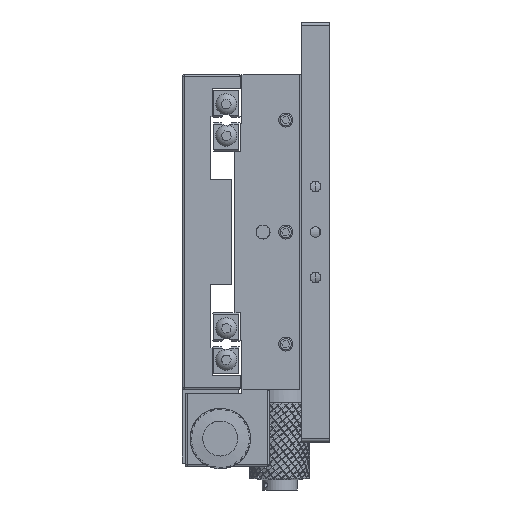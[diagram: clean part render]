
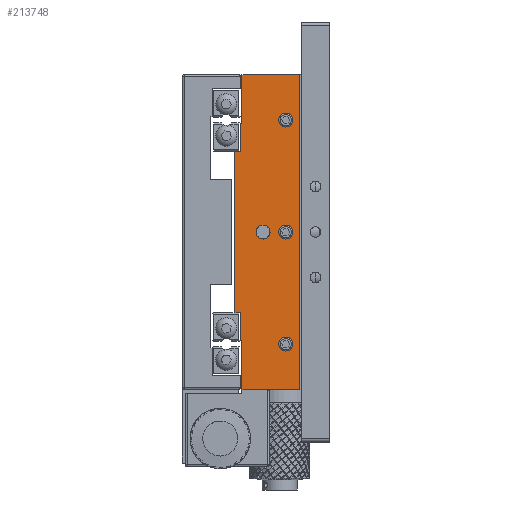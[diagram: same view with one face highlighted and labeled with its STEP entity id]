
A CAD part, left-side view. The second image highlights one B-rep face of the part: STEP entity #213748.
In plain terms, the highlighted planar face has unit normal (-1, 0, 0).
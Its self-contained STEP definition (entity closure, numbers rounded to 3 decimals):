
#38484 = VERTEX_POINT ( 'NONE', #92444 ) ;
#38618 = VERTEX_POINT ( 'NONE', #92604 ) ;
#38620 = VERTEX_POINT ( 'NONE', #92608 ) ;
#38623 = VERTEX_POINT ( 'NONE', #92612 ) ;
#77240 = CIRCLE ( 'NONE', #321544, 2. ) ;
#77322 = LINE ( 'NONE', #81578, #77333 ) ;
#77333 = VECTOR ( 'NONE', #81589, 1000. ) ;
#77359 = LINE ( 'NONE', #81624, #77368 ) ;
#77368 = VECTOR ( 'NONE', #81653, 1000. ) ;
#77376 = LINE ( 'NONE', #81667, #77383 ) ;
#77383 = VECTOR ( 'NONE', #81670, 1000. ) ;
#77396 = LINE ( 'NONE', #81690, #77409 ) ;
#77409 = VECTOR ( 'NONE', #81721, 1000. ) ;
#77413 = LINE ( 'NONE', #81731, #77420 ) ;
#77420 = VECTOR ( 'NONE', #81734, 1000. ) ;
#77443 = LINE ( 'NONE', #81801, #77449 ) ;
#77449 = VECTOR ( 'NONE', #81804, 1000. ) ;
#77456 = LINE ( 'NONE', #81815, #77462 ) ;
#77462 = VECTOR ( 'NONE', #81818, 1000. ) ;
#77475 = LINE ( 'NONE', #81838, #77488 ) ;
#77488 = VECTOR ( 'NONE', #81869, 1000. ) ;
#77493 = LINE ( 'NONE', #81879, #77499 ) ;
#77499 = VECTOR ( 'NONE', #81883, 1000. ) ;
#77510 = LINE ( 'NONE', #81881, #77519 ) ;
#77519 = VECTOR ( 'NONE', #81910, 1000. ) ;
#77564 = LINE ( 'NONE', #82260, #77586 ) ;
#77586 = VECTOR ( 'NONE', #82292, 1000. ) ;
#77645 = LINE ( 'NONE', #82417, #77651 ) ;
#77651 = VECTOR ( 'NONE', #82421, 1000. ) ;
#77658 = CIRCLE ( 'NONE', #321687, 2. ) ;
#77662 = CIRCLE ( 'NONE', #321689, 2. ) ;
#77664 = CIRCLE ( 'NONE', #321691, 2. ) ;
#81426 = CARTESIAN_POINT ( 'NONE',  ( -73.878, -35.729, 6.097 ) ) ;
#81429 = DIRECTION ( 'NONE',  ( -1., 0., 0. ) ) ;
#81432 = DIRECTION ( 'NONE',  ( 0., 0., 1. ) ) ;
#81578 = CARTESIAN_POINT ( 'NONE',  ( -73.878, -39.729, 38.097 ) ) ;
#81589 = DIRECTION ( 'NONE',  ( 0., 0., -1. ) ) ;
#81624 = CARTESIAN_POINT ( 'NONE',  ( -73.878, -23.229, 38.097 ) ) ;
#81653 = DIRECTION ( 'NONE',  ( 0., 0., -1. ) ) ;
#81667 = CARTESIAN_POINT ( 'NONE',  ( -73.878, -30.479, 69.097 ) ) ;
#81670 = DIRECTION ( 'NONE',  ( 0., 1., 0. ) ) ;
#81690 = CARTESIAN_POINT ( 'NONE',  ( -73.878, -22.729, 38.097 ) ) ;
#81721 = DIRECTION ( 'NONE',  ( 0., 0., -1. ) ) ;
#81731 = CARTESIAN_POINT ( 'NONE',  ( -73.878, -30.479, 61.097 ) ) ;
#81734 = DIRECTION ( 'NONE',  ( 0., 1., 0. ) ) ;
#81801 = CARTESIAN_POINT ( 'NONE',  ( -73.878, -21.229, 38.097 ) ) ;
#81804 = DIRECTION ( 'NONE',  ( 0., 0., -1. ) ) ;
#81815 = CARTESIAN_POINT ( 'NONE',  ( -73.878, -30.479, 15.097 ) ) ;
#81818 = DIRECTION ( 'NONE',  ( 0., 1., 0. ) ) ;
#81838 = CARTESIAN_POINT ( 'NONE',  ( -73.878, -22.729, 38.097 ) ) ;
#81869 = DIRECTION ( 'NONE',  ( 0., 0., 1. ) ) ;
#81879 = CARTESIAN_POINT ( 'NONE',  ( -73.878, -30.479, 7.097 ) ) ;
#81881 = CARTESIAN_POINT ( 'NONE',  ( -73.878, -23.229, 38.097 ) ) ;
#81883 = DIRECTION ( 'NONE',  ( 0., 1., 0. ) ) ;
#81910 = DIRECTION ( 'NONE',  ( 0., 0., 1. ) ) ;
#82260 = CARTESIAN_POINT ( 'NONE',  ( -73.878, -30.479, 83.097 ) ) ;
#82292 = DIRECTION ( 'NONE',  ( 0., 1., 0. ) ) ;
#82417 = CARTESIAN_POINT ( 'NONE',  ( -73.878, -30.479, -6.903 ) ) ;
#82421 = DIRECTION ( 'NONE',  ( 0., 1., 0. ) ) ;
#82628 = CARTESIAN_POINT ( 'NONE',  ( -73.878, -29.229, 38.097 ) ) ;
#82630 = DIRECTION ( 'NONE',  ( -1., 0., 0. ) ) ;
#82633 = DIRECTION ( 'NONE',  ( 0., 0., 1. ) ) ;
#82642 = CARTESIAN_POINT ( 'NONE',  ( -73.878, -35.729, 38.097 ) ) ;
#82645 = DIRECTION ( 'NONE',  ( -1., 0., 0. ) ) ;
#82647 = DIRECTION ( 'NONE',  ( 0., 0., 1. ) ) ;
#82655 = CARTESIAN_POINT ( 'NONE',  ( -73.878, -35.729, 70.097 ) ) ;
#82658 = DIRECTION ( 'NONE',  ( -1., 0., 0. ) ) ;
#82661 = DIRECTION ( 'NONE',  ( 0., 0., 1. ) ) ;
#92444 = CARTESIAN_POINT ( 'NONE',  ( -73.878, -35.729, 8.097 ) ) ;
#92604 = CARTESIAN_POINT ( 'NONE',  ( -73.878, -29.229, 40.097 ) ) ;
#92608 = CARTESIAN_POINT ( 'NONE',  ( -73.878, -35.729, 40.097 ) ) ;
#92612 = CARTESIAN_POINT ( 'NONE',  ( -73.878, -35.729, 72.097 ) ) ;
#104346 = AXIS2_PLACEMENT_3D ( 'NONE', #315204, #315199, #315209 ) ;
#115269 = FACE_OUTER_BOUND ( 'NONE', #150756, .T. ) ;
#115273 = FACE_BOUND ( 'NONE', #150736, .T. ) ;
#115274 = FACE_BOUND ( 'NONE', #150759, .T. ) ;
#115276 = FACE_BOUND ( 'NONE', #150751, .T. ) ;
#115278 = FACE_BOUND ( 'NONE', #150746, .T. ) ;
#126766 = VERTEX_POINT ( 'NONE', #302175 ) ;
#126779 = VERTEX_POINT ( 'NONE', #302190 ) ;
#126783 = VERTEX_POINT ( 'NONE', #302194 ) ;
#126808 = VERTEX_POINT ( 'NONE', #302220 ) ;
#126833 = VERTEX_POINT ( 'NONE', #302246 ) ;
#126837 = VERTEX_POINT ( 'NONE', #302249 ) ;
#126841 = VERTEX_POINT ( 'NONE', #302252 ) ;
#126855 = VERTEX_POINT ( 'NONE', #302263 ) ;
#126863 = VERTEX_POINT ( 'NONE', #302268 ) ;
#126878 = VERTEX_POINT ( 'NONE', #302279 ) ;
#126921 = VERTEX_POINT ( 'NONE', #302315 ) ;
#127216 = VERTEX_POINT ( 'NONE', #302541 ) ;
#150736 = EDGE_LOOP ( 'NONE', ( #237588 ) ) ;
#150746 = EDGE_LOOP ( 'NONE', ( #237593 ) ) ;
#150751 = EDGE_LOOP ( 'NONE', ( #237664 ) ) ;
#150756 = EDGE_LOOP ( 'NONE', ( #237599, #237604, #237609, #237614, #237618, #237623, #237628, #237634, #237639, #237643, #237648, #237653 ) ) ;
#150759 = EDGE_LOOP ( 'NONE', ( #237659 ) ) ;
#213748 = ADVANCED_FACE ( 'NONE', ( #115273, #115278, #115269, #115274, #115276 ), #315200, .F. ) ;
#224536 = EDGE_CURVE ( 'NONE', #38484, #38484, #77240, .T. ) ;
#224590 = EDGE_CURVE ( 'NONE', #126863, #126921, #77322, .T. ) ;
#224613 = EDGE_CURVE ( 'NONE', #126878, #126841, #77359, .T. ) ;
#224623 = EDGE_CURVE ( 'NONE', #126841, #126855, #77376, .T. ) ;
#224641 = EDGE_CURVE ( 'NONE', #126855, #126808, #77396, .T. ) ;
#224648 = EDGE_CURVE ( 'NONE', #126808, #126833, #77413, .T. ) ;
#224668 = EDGE_CURVE ( 'NONE', #126833, #126783, #77443, .T. ) ;
#224671 = EDGE_CURVE ( 'NONE', #126837, #126783, #77456, .T. ) ;
#224679 = EDGE_CURVE ( 'NONE', #126766, #126837, #77475, .T. ) ;
#224682 = EDGE_CURVE ( 'NONE', #126779, #126766, #77493, .T. ) ;
#224687 = EDGE_CURVE ( 'NONE', #127216, #126779, #77510, .T. ) ;
#237588 = ORIENTED_EDGE ( 'NONE', *, *, #251202, .F. ) ;
#237593 = ORIENTED_EDGE ( 'NONE', *, *, #251207, .F. ) ;
#237599 = ORIENTED_EDGE ( 'NONE', *, *, #251173, .F. ) ;
#237604 = ORIENTED_EDGE ( 'NONE', *, *, #224590, .F. ) ;
#237609 = ORIENTED_EDGE ( 'NONE', *, *, #251083, .T. ) ;
#237614 = ORIENTED_EDGE ( 'NONE', *, *, #224613, .T. ) ;
#237618 = ORIENTED_EDGE ( 'NONE', *, *, #224623, .T. ) ;
#237623 = ORIENTED_EDGE ( 'NONE', *, *, #224641, .T. ) ;
#237628 = ORIENTED_EDGE ( 'NONE', *, *, #224648, .T. ) ;
#237634 = ORIENTED_EDGE ( 'NONE', *, *, #224668, .T. ) ;
#237639 = ORIENTED_EDGE ( 'NONE', *, *, #224671, .F. ) ;
#237643 = ORIENTED_EDGE ( 'NONE', *, *, #224679, .F. ) ;
#237648 = ORIENTED_EDGE ( 'NONE', *, *, #224682, .F. ) ;
#237653 = ORIENTED_EDGE ( 'NONE', *, *, #224687, .F. ) ;
#237659 = ORIENTED_EDGE ( 'NONE', *, *, #224536, .F. ) ;
#237664 = ORIENTED_EDGE ( 'NONE', *, *, #251212, .F. ) ;
#251083 = EDGE_CURVE ( 'NONE', #126863, #126878, #77564, .T. ) ;
#251173 = EDGE_CURVE ( 'NONE', #126921, #127216, #77645, .T. ) ;
#251202 = EDGE_CURVE ( 'NONE', #38618, #38618, #77658, .T. ) ;
#251207 = EDGE_CURVE ( 'NONE', #38620, #38620, #77662, .T. ) ;
#251212 = EDGE_CURVE ( 'NONE', #38623, #38623, #77664, .T. ) ;
#302175 = CARTESIAN_POINT ( 'NONE',  ( -73.878, -22.729, 7.097 ) ) ;
#302190 = CARTESIAN_POINT ( 'NONE',  ( -73.878, -23.229, 7.097 ) ) ;
#302194 = CARTESIAN_POINT ( 'NONE',  ( -73.878, -21.229, 15.097 ) ) ;
#302220 = CARTESIAN_POINT ( 'NONE',  ( -73.878, -22.729, 61.097 ) ) ;
#302246 = CARTESIAN_POINT ( 'NONE',  ( -73.878, -21.229, 61.097 ) ) ;
#302249 = CARTESIAN_POINT ( 'NONE',  ( -73.878, -22.729, 15.097 ) ) ;
#302252 = CARTESIAN_POINT ( 'NONE',  ( -73.878, -23.229, 69.097 ) ) ;
#302263 = CARTESIAN_POINT ( 'NONE',  ( -73.878, -22.729, 69.097 ) ) ;
#302268 = CARTESIAN_POINT ( 'NONE',  ( -73.878, -39.729, 83.097 ) ) ;
#302279 = CARTESIAN_POINT ( 'NONE',  ( -73.878, -23.229, 83.097 ) ) ;
#302315 = CARTESIAN_POINT ( 'NONE',  ( -73.878, -39.729, -6.903 ) ) ;
#302541 = CARTESIAN_POINT ( 'NONE',  ( -73.878, -23.229, -6.903 ) ) ;
#315199 = DIRECTION ( 'NONE',  ( 1., 0., 0. ) ) ;
#315200 = PLANE ( 'NONE',  #104346 ) ;
#315204 = CARTESIAN_POINT ( 'NONE',  ( -73.878, -30.479, 38.097 ) ) ;
#315209 = DIRECTION ( 'NONE',  ( 0., 0., -1. ) ) ;
#321544 = AXIS2_PLACEMENT_3D ( 'NONE', #81426, #81429, #81432 ) ;
#321687 = AXIS2_PLACEMENT_3D ( 'NONE', #82628, #82630, #82633 ) ;
#321689 = AXIS2_PLACEMENT_3D ( 'NONE', #82642, #82645, #82647 ) ;
#321691 = AXIS2_PLACEMENT_3D ( 'NONE', #82655, #82658, #82661 ) ;
